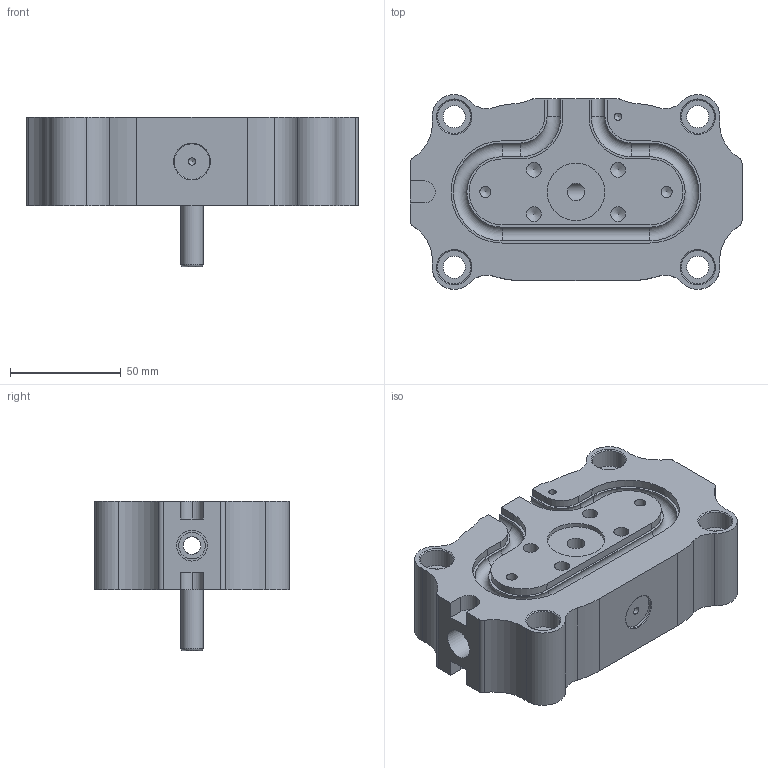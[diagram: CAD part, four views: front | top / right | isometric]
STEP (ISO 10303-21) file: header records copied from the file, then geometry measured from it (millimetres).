
FILE_DESCRIPTION(('STEP AP214'),'1');
FILE_NAME('S:/PROIECTE_YUDO_2011_dupa_01_07_2011/PROIECTE 2011_2D_DUPA_01_07_2011/YU CZ/YUCZ11-190/YUCZ11-190_MANIFOLD.step','2011-11-23T13:20:28',(' '),(' '),'Spatial InterOp 3D',' ',' ');
FILE_SCHEMA(('automotive_design'));
Length unit declared in the file: millimetre
Products named in the file (2): MF Block Gate Type; Lock pin
Bounding box: 150 x 88 x 67.5 mm (x, y, z)
Volume: 387305.5 mm3; surface area: 62303 mm2
Topology: 2 solids, 2 shells, 164 faces, 437 edges, 287 vertices
Faces by surface type: cylinder 74, plane 51, cone 29, torus 10
Full cylindrical faces by diameter (mm): 3.3 x4, 5 x4, 6 x2, 6.75 x8, 8 x2, 10 x6, 12 x2, 14 x2, 15 x4, 16 x1, 26 x1
Entity records: 6273 total; most frequent: CARTESIAN_POINT 938, DIRECTION 890, ORIENTED_EDGE 732, EDGE_CURVE 366, AXIS2_PLACEMENT_3D 360, VERTEX_POINT 276, EDGE_LOOP 242, FACE_OUTER_BOUND 202
